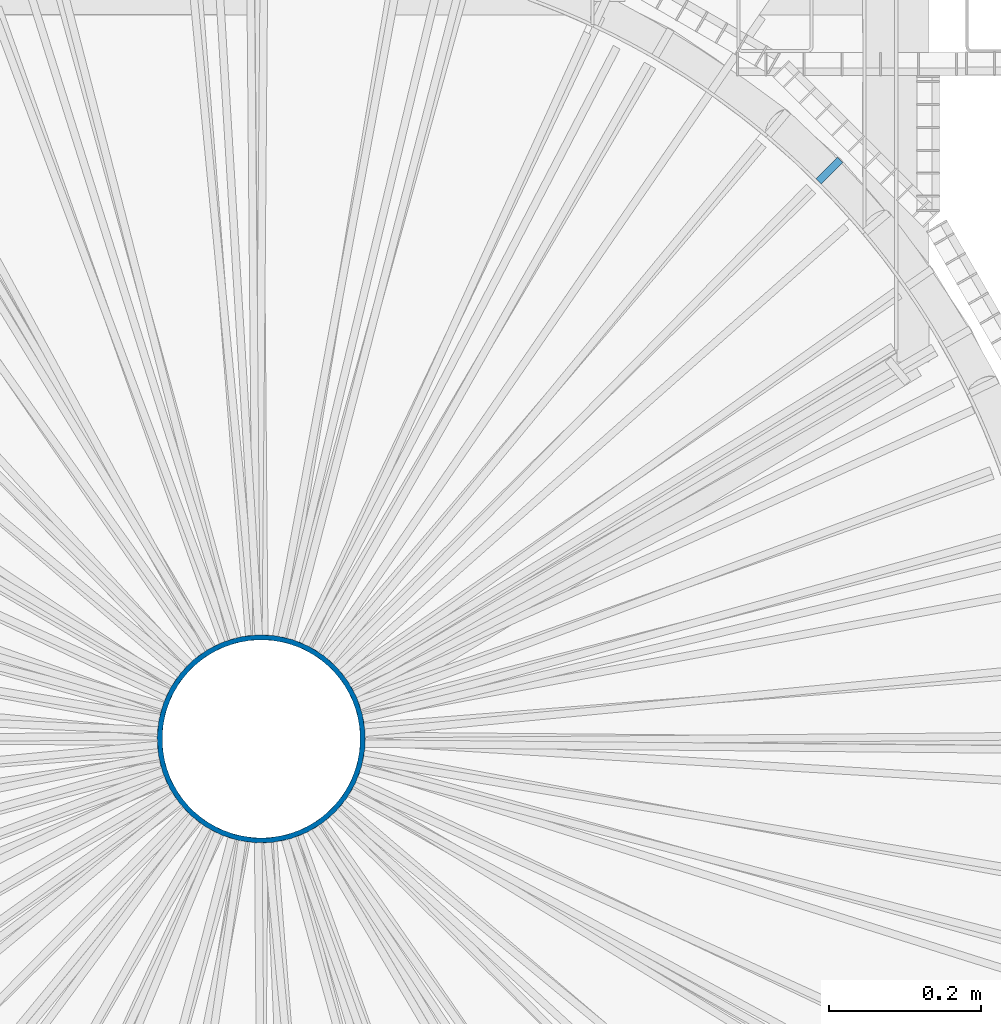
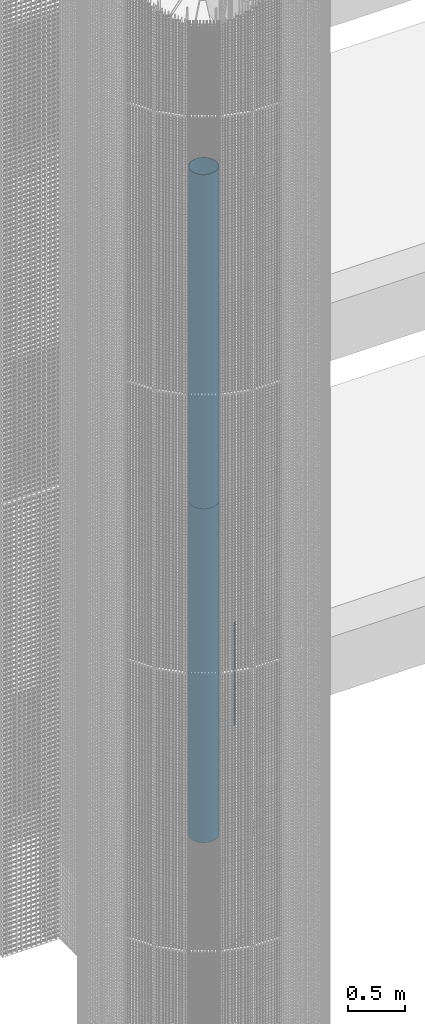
# One storey, part 51 of 1183: 3 columns, 3 elements without a shape of their own.
"""IFC2X3 building model written with IfcOpenShell, lengths in millimetres."""

from ifc_helpers import new_model, si_unit, frame, origin_with_axes, origin_2d_with_axis, place, context, subcontext, project, spatial, rectangle, hollow_circle, extrude, material, type_object, element, aggregate, save


model = new_model("IFC2X3")

# Units and contexts
model_context = context("Model", 3, precision=1e-05, world=origin_with_axes())
body_context = subcontext(model_context, "Body", "Model", "MODEL_VIEW")
ifc_project = project(units=[si_unit("LENGTHUNIT", "METRE", prefix="MILLI"), si_unit("AREAUNIT", "SQUARE_METRE"), si_unit("VOLUMEUNIT", "CUBIC_METRE"), si_unit("MASSUNIT", "GRAM", prefix="KILO"), si_unit("TIMEUNIT", "SECOND"), si_unit("PLANEANGLEUNIT", "RADIAN"), si_unit("SOLIDANGLEUNIT", "STERADIAN"), si_unit("THERMODYNAMICTEMPERATUREUNIT", "DEGREE_CELSIUS"), si_unit("LUMINOUSINTENSITYUNIT", "LUMEN")], contexts=[model_context])

# Site, building, storey
site_placement = place(None, origin_with_axes())
site = spatial("IfcSite", under=ifc_project, at=site_placement, Name="Undefined", CompositionType="ELEMENT")
building_placement = place(site_placement, origin_with_axes())
building = spatial("IfcBuilding", under=site, at=building_placement, Name="Undefined", CompositionType="ELEMENT")
storey_placement = place(building_placement, origin_with_axes())
storey = spatial("IfcBuildingStorey", under=building, at=storey_placement, Name="Undefined", CompositionType="ELEMENT", Elevation=0.0)

# Assembly, column
assembly_1_placement = place(storey_placement, origin_with_axes())
assembly_1 = element("IfcElementAssembly", 1, at=assembly_1_placement, inside=storey, Name="MONTANT", AssemblyPlace="NOTDEFINED", PredefinedType="NOTDEFINED")
ifc_material = material(Name="STEEL/S235JR")
column_type_1 = type_object("IfcColumnType", Name="PL10*40", PredefinedType="NOTDEFINED")
column_1_placement = place(assembly_1_placement, frame((22345.2905473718, 745.290547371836, 6959.56), z_axis=(0.0, 0.0, 1.0), x_axis=(-0.70710678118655, -0.707106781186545, 0.0)))
column_1 = element("IfcColumn", 2, at=column_1_placement, type_object=column_type_1, material=ifc_material, Name="MONTANT", context=body_context, shape_type="SweptSolid", body=[
    extrude(rectangle(XDim=10.0, YDim=40.0, at=origin_2d_with_axis()), frame((0.0, 0.0, 1100.0), z_axis=(0.0, 0.0, -1.0), x_axis=(0.0, 1.0, 0.0)), (0.0, 0.0, 1.0), 1100.0),
])
aggregate(assembly_1, [column_1])

assembly_2_placement = place(storey_placement, origin_with_axes())
assembly_2 = element("IfcElementAssembly", 3, at=assembly_2_placement, inside=storey, Name="POTEAU", AssemblyPlace="NOTDEFINED", PredefinedType="NOTDEFINED")
column_type_2 = type_object("IfcColumnType", Name="TUBE-273*6.3", PredefinedType="NOTDEFINED")
column_2_placement = place(assembly_2_placement, frame((21600.0, 0.0, 10090.0), z_axis=(0.0, 0.0, 1.0), x_axis=(-0.422618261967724, -0.906307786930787, 0.0)))
column_2 = element("IfcColumn", 4, at=column_2_placement, type_object=column_type_2, material=ifc_material, Name="POTEAU", context=body_context, shape_type="SweptSolid", body=[
    extrude(hollow_circle(Radius=136.5, WallThickness=6.3, at=origin_2d_with_axis()), frame((0.0, 0.0, 3600.0), z_axis=(0.0, 0.0, -1.0), x_axis=(0.0, 1.0, 0.0)), (0.0, 0.0, 1.0), 3600.0),
])
aggregate(assembly_2, [column_2])

assembly_3_placement = place(storey_placement, origin_with_axes())
assembly_3 = element("IfcElementAssembly", 5, at=assembly_3_placement, inside=storey, Name="POTEAU", AssemblyPlace="NOTDEFINED", PredefinedType="NOTDEFINED")
column_3_placement = place(assembly_3_placement, frame((21600.0, 0.0, 6490.0), z_axis=(0.0, 0.0, 1.0), x_axis=(0.0, -1.0, 0.0)))
column_3 = element("IfcColumn", 6, at=column_3_placement, type_object=column_type_2, material=ifc_material, Name="POTEAU", context=body_context, shape_type="SweptSolid", body=[
    extrude(hollow_circle(Radius=136.5, WallThickness=6.3, at=origin_2d_with_axis()), frame((0.0, 0.0, 3600.0), z_axis=(0.0, 0.0, -1.0), x_axis=(0.0, 1.0, 0.0)), (0.0, 0.0, 1.0), 3600.0),
])
aggregate(assembly_3, [column_3])

save(model, "model.ifc")
